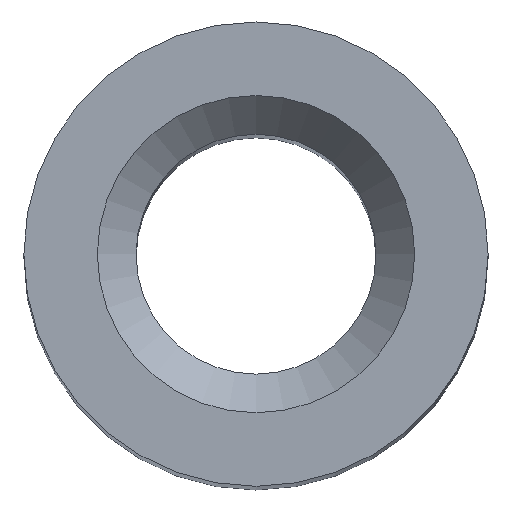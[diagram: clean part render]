
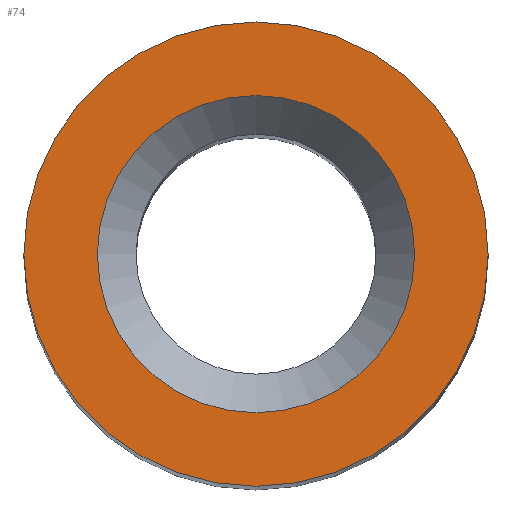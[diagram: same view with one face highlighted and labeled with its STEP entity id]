
A CAD part, top view. The second image highlights one B-rep face of the part: STEP entity #74.
In plain terms, the highlighted planar face has unit normal (0, 0, 1).
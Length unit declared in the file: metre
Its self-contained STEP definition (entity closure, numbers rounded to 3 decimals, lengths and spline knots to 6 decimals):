
#14=PLANE('',#97);
#20=ORIENTED_EDGE('',*,*,#32,.T.);
#21=ORIENTED_EDGE('',*,*,#30,.T.);
#30=EDGE_CURVE('',#36,#36,#42,.T.);
#32=EDGE_CURVE('',#38,#38,#44,.F.);
#36=VERTEX_POINT('',#137);
#38=VERTEX_POINT('',#142);
#42=CIRCLE('',#95,0.00381);
#44=CIRCLE('',#98,0.002604);
#50=EDGE_LOOP('',(#20));
#51=EDGE_LOOP('',(#21));
#62=FACE_BOUND('',#50,.T.);
#63=FACE_BOUND('',#51,.T.);
#74=ADVANCED_FACE('',(#62,#63),#14,.T.);
#95=AXIS2_PLACEMENT_3D('',#136,#113,#114);
#97=AXIS2_PLACEMENT_3D('',#140,#117,#118);
#98=AXIS2_PLACEMENT_3D('',#141,#119,#120);
#113=DIRECTION('',(0.,0.,1.));
#114=DIRECTION('',(1.,0.,0.));
#117=DIRECTION('',(0.,0.,1.));
#118=DIRECTION('',(1.,0.,0.));
#119=DIRECTION('',(0.,0.,1.));
#120=DIRECTION('',(1.,0.,0.));
#136=CARTESIAN_POINT('',(0.,0.04572,0.041275));
#137=CARTESIAN_POINT('',(0.00381,0.04572,0.041275));
#140=CARTESIAN_POINT('',(-0.026988,0.068546,0.041275));
#141=CARTESIAN_POINT('',(0.,0.04572,0.041275));
#142=CARTESIAN_POINT('',(0.002604,0.04572,0.041275));
